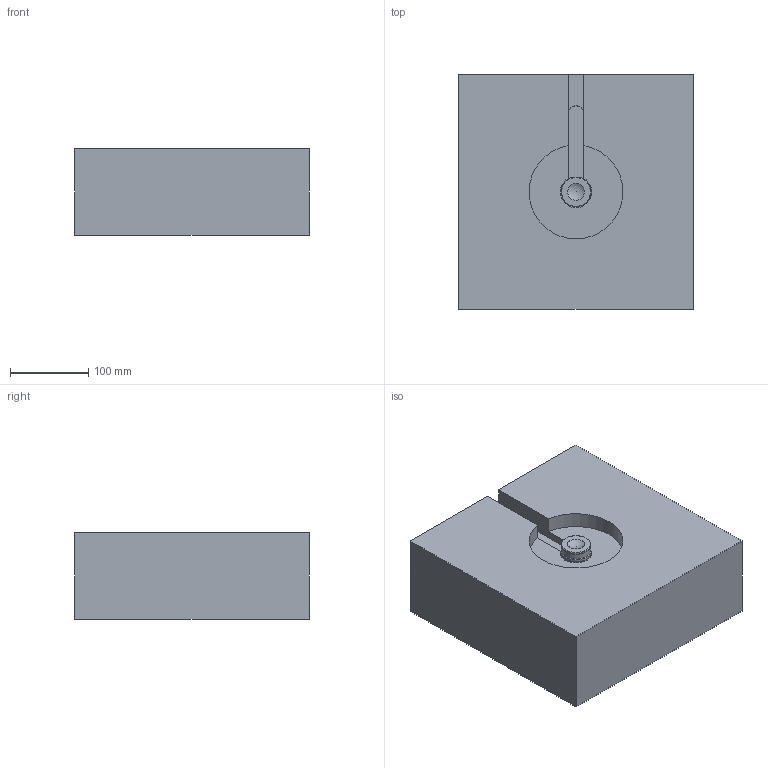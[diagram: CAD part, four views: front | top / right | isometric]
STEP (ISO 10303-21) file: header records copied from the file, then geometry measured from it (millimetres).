
FILE_DESCRIPTION( ( 'STEP AP214' ), '1' );
FILE_NAME( 'D:/PROIECTE_YUDO_2009/PROIECTE YUDO 3D/BIS/YUEU09-BIS18TLC080_1.5/YUEU09-BIS18TLC080.step', '2009-04-15T08:06:38', ( ' ' ), ( ' ' ), 'XStep 1.0', ' ', ' ' );
FILE_SCHEMA( ( 'automotive_design' ) );
Length unit declared in the file: millimetre
Products named in the file (6): 1; 2; 3; 4; 5; 6
Bounding box: 300 x 300 x 110 mm (x, y, z)
Volume: 9612733 mm3; surface area: 350399.7 mm2
Topology: 6 solids, 6 shells, 100 faces, 229 edges, 149 vertices
Faces by surface type: plane 39, cylinder 35, cone 15, torus 8, bspline 2, sphere 1
Full cylindrical faces by diameter (mm): 1.7 x2, 7.8 x1, 8 x2, 8.8 x1, 10.4 x1, 12 x1, 12.8 x1, 14 x1, 17 x1, 18 x2, 18.2 x1, 18.25 x1, 24 x1, 28.62 x1, 32 x1, 37 x1, 38 x2
Entity records: 3593 total; most frequent: CARTESIAN_POINT 565, DIRECTION 476, ORIENTED_EDGE 362, AXIS2_PLACEMENT_3D 203, EDGE_CURVE 181, EDGE_LOOP 159, VERTEX_POINT 144, FACE_OUTER_BOUND 131
